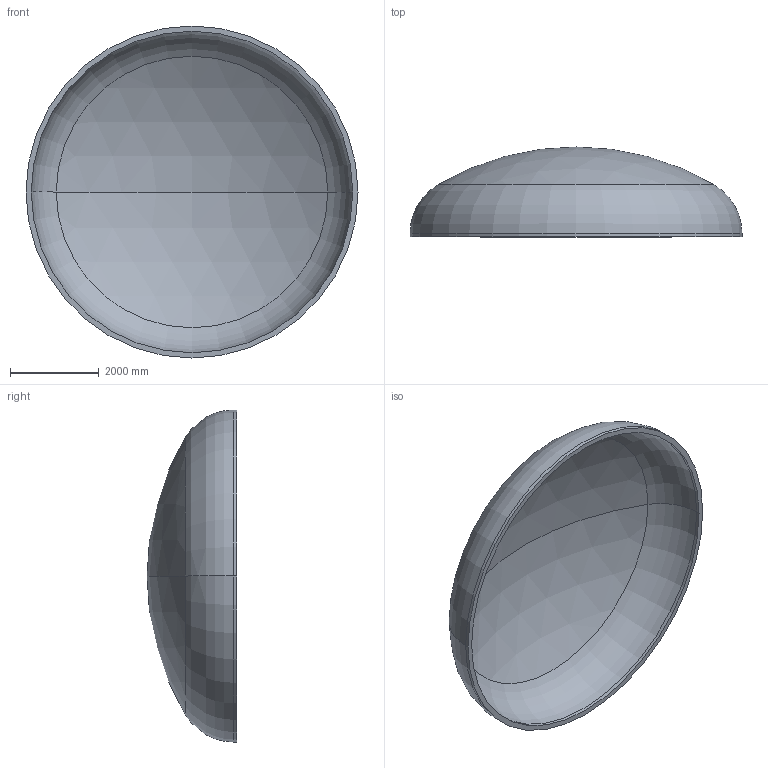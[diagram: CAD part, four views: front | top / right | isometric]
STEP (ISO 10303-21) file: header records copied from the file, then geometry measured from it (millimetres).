
FILE_DESCRIPTION (( 'STEP AP203' ), '1' );
FILE_NAME ('DIN 28013 Korbbogenform_-_Boden DIN 28013 - 7500 x 75 - I - s=118.step', '2016-07-04T10:57:51', ( '' ), ( '' ), 'SwSTEP 2.0', 'SolidWorks 2013', '' );
FILE_SCHEMA (( 'CONFIG_CONTROL_DESIGN' ));
Length unit declared in the file: millimetre
Products named in the file (1): DIN 28013 Korbbogenform_-_Boden DIN 28013 - 7500 x 75 - I - s=118
Bounding box: 7500 x 2029.05 x 7500 mm (x, y, z)
Volume: 7276875396.1 mm3; surface area: 126102552.4 mm2
Topology: 1 solids, 1 shells, 13 faces, 24 edges, 14 vertices
Faces by surface type: torus 4, cylinder 4, sphere 4, plane 1
Entity records: 407 total; most frequent: DIRECTION 72, CARTESIAN_POINT 52, ORIENTED_EDGE 48, AXIS2_PLACEMENT_3D 34, EDGE_CURVE 24, CIRCLE 20, VERTEX_POINT 14, EDGE_LOOP 14
